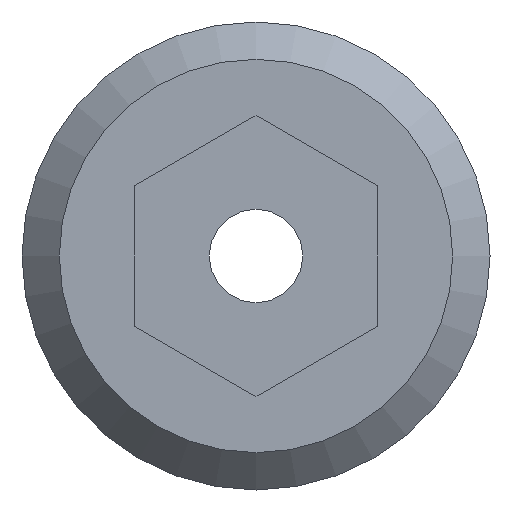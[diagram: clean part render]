
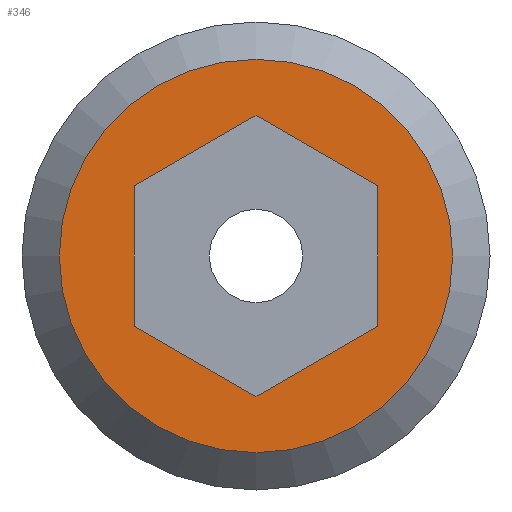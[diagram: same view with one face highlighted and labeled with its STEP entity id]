
A CAD part, front view. The second image highlights one B-rep face of the part: STEP entity #346.
In plain terms, the highlighted planar face has unit normal (0, -1, 0).
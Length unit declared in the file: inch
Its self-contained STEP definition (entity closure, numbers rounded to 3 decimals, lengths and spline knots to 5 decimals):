
#26=FACE_BOUND('',#89,.T.);
#43=CIRCLE('',#393,0.126);
#66=FACE_OUTER_BOUND('',#88,.T.);
#88=EDGE_LOOP('',(#293));
#89=EDGE_LOOP('',(#294,#295,#296,#297,#298,#299));
#95=LINE('',#524,#119);
#99=LINE('',#532,#123);
#102=LINE('',#538,#126);
#105=LINE('',#544,#129);
#108=LINE('',#550,#132);
#111=LINE('',#555,#135);
#119=VECTOR('',#412,0.3937);
#123=VECTOR('',#418,0.3937);
#126=VECTOR('',#423,0.3937);
#129=VECTOR('',#428,0.3937);
#132=VECTOR('',#433,0.3937);
#135=VECTOR('',#438,0.3937);
#143=VERTEX_POINT('',#522);
#144=VERTEX_POINT('',#523);
#147=VERTEX_POINT('',#531);
#149=VERTEX_POINT('',#537);
#151=VERTEX_POINT('',#543);
#153=VERTEX_POINT('',#549);
#168=VERTEX_POINT('',#593);
#177=EDGE_CURVE('',#143,#144,#95,.T.);
#181=EDGE_CURVE('',#147,#143,#99,.T.);
#184=EDGE_CURVE('',#149,#147,#102,.T.);
#187=EDGE_CURVE('',#151,#149,#105,.T.);
#190=EDGE_CURVE('',#153,#151,#108,.T.);
#193=EDGE_CURVE('',#144,#153,#111,.T.);
#211=EDGE_CURVE('',#168,#168,#43,.T.);
#293=ORIENTED_EDGE('',*,*,#211,.F.);
#294=ORIENTED_EDGE('',*,*,#177,.T.);
#295=ORIENTED_EDGE('',*,*,#193,.T.);
#296=ORIENTED_EDGE('',*,*,#190,.T.);
#297=ORIENTED_EDGE('',*,*,#187,.T.);
#298=ORIENTED_EDGE('',*,*,#184,.T.);
#299=ORIENTED_EDGE('',*,*,#181,.T.);
#330=PLANE('',#399);
#346=ADVANCED_FACE('',(#66,#26),#330,.T.);
#393=AXIS2_PLACEMENT_3D('',#594,#485,#486);
#399=AXIS2_PLACEMENT_3D('',#606,#499,#500);
#412=DIRECTION('',(0.866,0.,-0.5));
#418=DIRECTION('',(0.866,0.,0.5));
#423=DIRECTION('',(0.,0.,1.));
#428=DIRECTION('',(-0.866,0.,0.5));
#433=DIRECTION('',(-0.866,0.,-0.5));
#438=DIRECTION('',(0.,0.,-1.));
#485=DIRECTION('center_axis',(0.,1.,0.));
#486=DIRECTION('ref_axis',(0.,0.,1.));
#499=DIRECTION('center_axis',(0.,-1.,0.));
#500=DIRECTION('ref_axis',(0.,0.,-1.));
#522=CARTESIAN_POINT('',(0.,0.,0.09007));
#523=CARTESIAN_POINT('',(0.078,0.,0.04503));
#524=CARTESIAN_POINT('',(0.026,0.,0.07506));
#531=CARTESIAN_POINT('',(-0.078,0.,0.04503));
#532=CARTESIAN_POINT('',(-0.065,0.,0.05254));
#537=CARTESIAN_POINT('',(-0.078,0.,-0.04503));
#538=CARTESIAN_POINT('',(-0.078,0.,-0.03752));
#543=CARTESIAN_POINT('',(0.,0.,-0.09007));
#544=CARTESIAN_POINT('',(-0.013,0.,-0.08256));
#549=CARTESIAN_POINT('',(0.078,0.,-0.04503));
#550=CARTESIAN_POINT('',(0.052,0.,-0.06004));
#555=CARTESIAN_POINT('',(0.078,0.,0.00752));
#593=CARTESIAN_POINT('',(0.,0.,-0.126));
#594=CARTESIAN_POINT('Origin',(0.,0.,0.));
#606=CARTESIAN_POINT('Origin',(0.,0.,-0.03));
